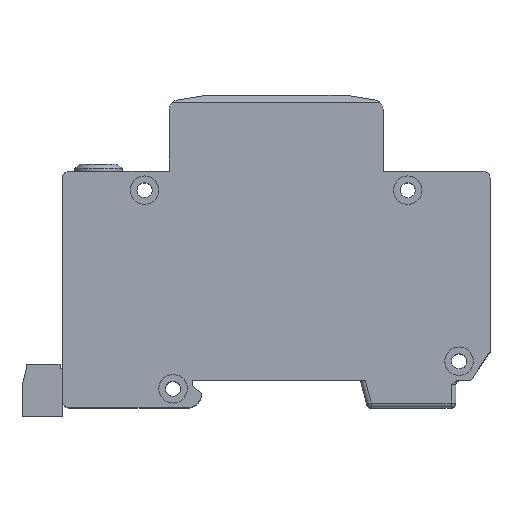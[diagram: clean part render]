
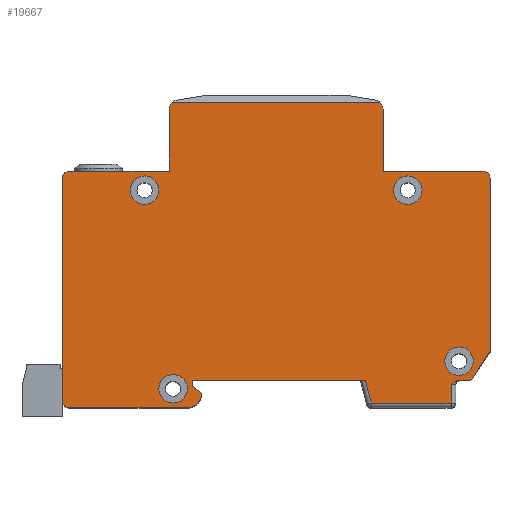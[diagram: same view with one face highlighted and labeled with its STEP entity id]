
A CAD part, top view. The second image highlights one B-rep face of the part: STEP entity #19667.
In plain terms, the highlighted planar face has unit normal (0, 0, 1).
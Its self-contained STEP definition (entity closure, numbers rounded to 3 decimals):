
#292=FACE_BOUND('',#2930,.T.);
#293=FACE_BOUND('',#2931,.T.);
#294=FACE_BOUND('',#2932,.T.);
#295=FACE_BOUND('',#2933,.T.);
#325=B_SPLINE_CURVE_WITH_KNOTS('',3,(#31163,#31164,#31165,#31166,#31167,
#31168),.UNSPECIFIED.,.F.,.F.,(4,2,4),(0.506,0.582,
0.7),.UNSPECIFIED.);
#864=PLANE('',#21249);
#1809=FACE_OUTER_BOUND('',#2929,.T.);
#2929=EDGE_LOOP('',(#16687,#16688,#16689,#16690,#16691,#16692,#16693,#16694,
#16695,#16696,#16697,#16698,#16699,#16700,#16701,#16702,#16703,#16704,#16705,
#16706,#16707,#16708,#16709));
#2930=EDGE_LOOP('',(#16710));
#2931=EDGE_LOOP('',(#16711));
#2932=EDGE_LOOP('',(#16712));
#2933=EDGE_LOOP('',(#16713));
#4456=LINE('',#30152,#6747);
#4772=LINE('',#30841,#7063);
#4790=LINE('',#30878,#7081);
#4796=LINE('',#30894,#7087);
#4800=LINE('',#30902,#7091);
#4804=LINE('',#30914,#7095);
#4826=LINE('',#30973,#7117);
#4830=LINE('',#30982,#7121);
#4882=LINE('',#31082,#7173);
#4888=LINE('',#31100,#7179);
#4893=LINE('',#31149,#7184);
#4894=LINE('',#31153,#7185);
#4895=LINE('',#31156,#7186);
#4896=LINE('',#31158,#7187);
#4897=LINE('',#31160,#7188);
#4898=LINE('',#31162,#7189);
#6747=VECTOR('',#24497,10.);
#7063=VECTOR('',#25049,10.);
#7081=VECTOR('',#25089,10.);
#7087=VECTOR('',#25107,10.);
#7091=VECTOR('',#25115,10.);
#7095=VECTOR('',#25127,10.);
#7117=VECTOR('',#25191,10.);
#7121=VECTOR('',#25201,10.);
#7173=VECTOR('',#25297,10.);
#7179=VECTOR('',#25319,10.);
#7184=VECTOR('',#25386,10.);
#7185=VECTOR('',#25389,10.);
#7186=VECTOR('',#25392,10.);
#7187=VECTOR('',#25393,10.);
#7188=VECTOR('',#25394,10.);
#7189=VECTOR('',#25395,10.);
#8181=CIRCLE('',#21119,1.5);
#8183=CIRCLE('',#21150,1.5);
#8185=CIRCLE('',#21156,3.);
#8195=CIRCLE('',#21214,1.5);
#8214=CIRCLE('',#21250,2.);
#8215=CIRCLE('',#21251,2.);
#8216=CIRCLE('',#21252,3.);
#8217=CIRCLE('',#21253,3.);
#8218=CIRCLE('',#21254,3.);
#8219=CIRCLE('',#21255,3.);
#9305=VERTEX_POINT('',#30149);
#9306=VERTEX_POINT('',#30151);
#9531=VERTEX_POINT('',#30731);
#9561=VERTEX_POINT('',#30839);
#9567=VERTEX_POINT('',#30868);
#9569=VERTEX_POINT('',#30876);
#9571=VERTEX_POINT('',#30884);
#9573=VERTEX_POINT('',#30892);
#9575=VERTEX_POINT('',#30900);
#9579=VERTEX_POINT('',#30912);
#9594=VERTEX_POINT('',#30970);
#9595=VERTEX_POINT('',#30972);
#9597=VERTEX_POINT('',#30980);
#9623=VERTEX_POINT('',#31080);
#9625=VERTEX_POINT('',#31088);
#9627=VERTEX_POINT('',#31098);
#9640=VERTEX_POINT('',#31148);
#9641=VERTEX_POINT('',#31150);
#9642=VERTEX_POINT('',#31152);
#9643=VERTEX_POINT('',#31154);
#9644=VERTEX_POINT('',#31157);
#9645=VERTEX_POINT('',#31159);
#9646=VERTEX_POINT('',#31161);
#9647=VERTEX_POINT('',#31169);
#9648=VERTEX_POINT('',#31171);
#9649=VERTEX_POINT('',#31173);
#9650=VERTEX_POINT('',#31175);
#11620=EDGE_CURVE('',#9306,#9305,#4456,.T.);
#11910=EDGE_CURVE('',#9531,#9305,#8181,.T.);
#11966=EDGE_CURVE('',#9531,#9561,#4772,.T.);
#11982=EDGE_CURVE('',#9567,#9561,#8183,.T.);
#11986=EDGE_CURVE('',#9567,#9569,#4790,.T.);
#11990=EDGE_CURVE('',#9569,#9571,#8185,.T.);
#11994=EDGE_CURVE('',#9571,#9573,#4796,.T.);
#11998=EDGE_CURVE('',#9573,#9575,#4800,.T.);
#12004=EDGE_CURVE('',#9575,#9579,#4804,.T.);
#12033=EDGE_CURVE('',#9594,#9595,#4826,.T.);
#12038=EDGE_CURVE('',#9594,#9597,#4830,.T.);
#12090=EDGE_CURVE('',#9597,#9623,#4882,.T.);
#12094=EDGE_CURVE('',#9625,#9623,#8195,.T.);
#12100=EDGE_CURVE('',#9625,#9627,#4888,.T.);
#12121=EDGE_CURVE('',#9627,#9640,#4893,.T.);
#12122=EDGE_CURVE('',#9641,#9640,#8214,.T.);
#12123=EDGE_CURVE('',#9642,#9641,#4894,.T.);
#12124=EDGE_CURVE('',#9643,#9642,#8215,.T.);
#12125=EDGE_CURVE('',#9643,#9306,#4895,.T.);
#12126=EDGE_CURVE('',#9644,#9579,#4896,.T.);
#12127=EDGE_CURVE('',#9645,#9644,#4897,.T.);
#12128=EDGE_CURVE('',#9646,#9645,#4898,.T.);
#12129=EDGE_CURVE('',#9595,#9646,#325,.T.);
#12130=EDGE_CURVE('',#9647,#9647,#8216,.T.);
#12131=EDGE_CURVE('',#9648,#9648,#8217,.T.);
#12132=EDGE_CURVE('',#9649,#9649,#8218,.T.);
#12133=EDGE_CURVE('',#9650,#9650,#8219,.T.);
#16687=ORIENTED_EDGE('',*,*,#12094,.F.);
#16688=ORIENTED_EDGE('',*,*,#12100,.T.);
#16689=ORIENTED_EDGE('',*,*,#12121,.T.);
#16690=ORIENTED_EDGE('',*,*,#12122,.F.);
#16691=ORIENTED_EDGE('',*,*,#12123,.F.);
#16692=ORIENTED_EDGE('',*,*,#12124,.F.);
#16693=ORIENTED_EDGE('',*,*,#12125,.T.);
#16694=ORIENTED_EDGE('',*,*,#11620,.T.);
#16695=ORIENTED_EDGE('',*,*,#11910,.F.);
#16696=ORIENTED_EDGE('',*,*,#11966,.T.);
#16697=ORIENTED_EDGE('',*,*,#11982,.F.);
#16698=ORIENTED_EDGE('',*,*,#11986,.T.);
#16699=ORIENTED_EDGE('',*,*,#11990,.T.);
#16700=ORIENTED_EDGE('',*,*,#11994,.T.);
#16701=ORIENTED_EDGE('',*,*,#11998,.T.);
#16702=ORIENTED_EDGE('',*,*,#12004,.T.);
#16703=ORIENTED_EDGE('',*,*,#12126,.F.);
#16704=ORIENTED_EDGE('',*,*,#12127,.F.);
#16705=ORIENTED_EDGE('',*,*,#12128,.F.);
#16706=ORIENTED_EDGE('',*,*,#12129,.F.);
#16707=ORIENTED_EDGE('',*,*,#12033,.F.);
#16708=ORIENTED_EDGE('',*,*,#12038,.T.);
#16709=ORIENTED_EDGE('',*,*,#12090,.T.);
#16710=ORIENTED_EDGE('',*,*,#12130,.T.);
#16711=ORIENTED_EDGE('',*,*,#12131,.T.);
#16712=ORIENTED_EDGE('',*,*,#12132,.T.);
#16713=ORIENTED_EDGE('',*,*,#12133,.T.);
#19667=ADVANCED_FACE('',(#1809,#292,#293,#294,#295),#864,.T.);
#21119=AXIS2_PLACEMENT_3D('',#30733,#24948,#24949);
#21150=AXIS2_PLACEMENT_3D('',#30870,#25080,#25081);
#21156=AXIS2_PLACEMENT_3D('',#30886,#25098,#25099);
#21214=AXIS2_PLACEMENT_3D('',#31090,#25306,#25307);
#21249=AXIS2_PLACEMENT_3D('',#31147,#25384,#25385);
#21250=AXIS2_PLACEMENT_3D('',#31151,#25387,#25388);
#21251=AXIS2_PLACEMENT_3D('',#31155,#25390,#25391);
#21252=AXIS2_PLACEMENT_3D('',#31170,#25396,#25397);
#21253=AXIS2_PLACEMENT_3D('',#31172,#25398,#25399);
#21254=AXIS2_PLACEMENT_3D('',#31174,#25400,#25401);
#21255=AXIS2_PLACEMENT_3D('',#31176,#25402,#25403);
#24497=DIRECTION('',(-1.,0.,0.));
#24948=DIRECTION('center_axis',(0.,0.,-1.));
#24949=DIRECTION('ref_axis',(-0.707,0.707,0.));
#25049=DIRECTION('',(0.,-1.,0.));
#25080=DIRECTION('center_axis',(0.,0.,-1.));
#25081=DIRECTION('ref_axis',(-0.707,-0.707,0.));
#25089=DIRECTION('',(1.,0.,0.));
#25098=DIRECTION('center_axis',(0.,0.,1.));
#25099=DIRECTION('ref_axis',(0.,-1.,0.));
#25107=DIRECTION('',(-0.781,0.625,0.));
#25115=DIRECTION('',(0.,1.,0.));
#25127=DIRECTION('',(1.,0.,0.));
#25191=DIRECTION('',(-1.,0.,0.));
#25201=DIRECTION('',(0.555,0.832,0.));
#25297=DIRECTION('',(0.,1.,0.));
#25306=DIRECTION('center_axis',(0.,0.,-1.));
#25307=DIRECTION('ref_axis',(0.707,0.707,0.));
#25319=DIRECTION('',(-1.,0.,0.));
#25384=DIRECTION('center_axis',(0.,0.,1.));
#25385=DIRECTION('ref_axis',(1.,0.,0.));
#25386=DIRECTION('',(0.,1.,0.));
#25387=DIRECTION('center_axis',(0.,0.,-1.));
#25388=DIRECTION('ref_axis',(0.762,0.648,0.));
#25389=DIRECTION('',(1.,0.,0.));
#25390=DIRECTION('center_axis',(0.,0.,-1.));
#25391=DIRECTION('ref_axis',(-0.762,0.648,0.));
#25392=DIRECTION('',(0.,-1.,0.));
#25393=DIRECTION('',(-0.259,0.966,0.));
#25394=DIRECTION('',(-1.,0.,0.));
#25395=DIRECTION('',(0.,-1.,0.));
#25396=DIRECTION('center_axis',(0.,0.,-1.));
#25397=DIRECTION('ref_axis',(1.,0.,0.));
#25398=DIRECTION('center_axis',(0.,0.,-1.));
#25399=DIRECTION('ref_axis',(1.,0.,0.));
#25400=DIRECTION('center_axis',(0.,0.,-1.));
#25401=DIRECTION('ref_axis',(1.,0.,0.));
#25402=DIRECTION('center_axis',(0.,0.,-1.));
#25403=DIRECTION('ref_axis',(1.,0.,0.));
#30149=CARTESIAN_POINT('',(-43.5,14.,17.5));
#30151=CARTESIAN_POINT('',(-22.5,14.,17.5));
#30152=CARTESIAN_POINT('',(-22.5,14.,17.5));
#30731=CARTESIAN_POINT('',(-45.,12.5,17.5));
#30733=CARTESIAN_POINT('Origin',(-43.5,12.5,17.5));
#30839=CARTESIAN_POINT('',(-45.,-34.3,17.5));
#30841=CARTESIAN_POINT('',(-45.,14.,17.5));
#30868=CARTESIAN_POINT('',(-43.5,-35.8,17.5));
#30870=CARTESIAN_POINT('Origin',(-43.5,-34.3,17.5));
#30876=CARTESIAN_POINT('',(-18.7,-35.8,17.5));
#30878=CARTESIAN_POINT('',(-45.,-35.8,17.5));
#30884=CARTESIAN_POINT('',(-15.7,-32.8,17.5));
#30886=CARTESIAN_POINT('Origin',(-18.7,-32.8,17.5));
#30892=CARTESIAN_POINT('',(-17.7,-31.2,17.5));
#30894=CARTESIAN_POINT('',(-15.7,-32.8,17.5));
#30900=CARTESIAN_POINT('',(-17.7,-30.,17.5));
#30902=CARTESIAN_POINT('',(-17.7,-31.2,17.5));
#30912=CARTESIAN_POINT('',(18.735,-30.,17.5));
#30914=CARTESIAN_POINT('',(-17.7,-30.,17.5));
#30970=CARTESIAN_POINT('',(41.,-30.,17.5));
#30972=CARTESIAN_POINT('',(38.532,-30.,17.5));
#30973=CARTESIAN_POINT('',(18.592,-30.,17.5));
#30980=CARTESIAN_POINT('',(45.,-24.,17.5));
#30982=CARTESIAN_POINT('',(41.,-30.,17.5));
#31080=CARTESIAN_POINT('',(45.,12.5,17.5));
#31082=CARTESIAN_POINT('',(45.,-24.,17.5));
#31088=CARTESIAN_POINT('',(43.5,14.,17.5));
#31090=CARTESIAN_POINT('Origin',(43.5,12.5,17.5));
#31098=CARTESIAN_POINT('',(22.5,14.,17.5));
#31100=CARTESIAN_POINT('',(45.,14.,17.5));
#31147=CARTESIAN_POINT('Origin',(-0.615,-5.122,17.5));
#31148=CARTESIAN_POINT('',(22.5,26.999,17.5));
#31149=CARTESIAN_POINT('',(22.5,14.,17.5));
#31150=CARTESIAN_POINT('',(21.821,28.5,17.5));
#31151=CARTESIAN_POINT('Origin',(20.5,26.999,17.5));
#31152=CARTESIAN_POINT('',(-21.821,28.5,17.5));
#31153=CARTESIAN_POINT('',(10.942,28.5,17.5));
#31154=CARTESIAN_POINT('',(-22.5,26.999,17.5));
#31155=CARTESIAN_POINT('Origin',(-20.5,26.999,17.5));
#31156=CARTESIAN_POINT('',(-22.5,30.,17.5));
#31157=CARTESIAN_POINT('',(20.021,-34.8,17.5));
#31158=CARTESIAN_POINT('',(14.943,-15.846,17.5));
#31159=CARTESIAN_POINT('',(36.8,-34.8,17.5));
#31160=CARTESIAN_POINT('',(9.319,-34.8,17.5));
#31161=CARTESIAN_POINT('',(36.8,-31.,17.5));
#31162=CARTESIAN_POINT('',(36.8,-20.461,17.5));
#31163=CARTESIAN_POINT('Ctrl Pts',(38.532,-30.,17.5));
#31164=CARTESIAN_POINT('Ctrl Pts',(38.277,-30.,17.5));
#31165=CARTESIAN_POINT('Ctrl Pts',(37.985,-30.09,17.5));
#31166=CARTESIAN_POINT('Ctrl Pts',(37.415,-30.396,17.5));
#31167=CARTESIAN_POINT('Ctrl Pts',(37.077,-30.723,17.5));
#31168=CARTESIAN_POINT('Ctrl Pts',(36.8,-31.,17.5));
#31169=CARTESIAN_POINT('',(35.5,-26.,17.5));
#31170=CARTESIAN_POINT('Origin',(38.5,-26.,17.5));
#31171=CARTESIAN_POINT('',(24.7,10.,17.5));
#31172=CARTESIAN_POINT('Origin',(27.7,10.,17.5));
#31173=CARTESIAN_POINT('',(-30.7,10.,17.5));
#31174=CARTESIAN_POINT('Origin',(-27.7,10.,17.5));
#31175=CARTESIAN_POINT('',(-24.7,-31.8,17.5));
#31176=CARTESIAN_POINT('Origin',(-21.7,-31.8,17.5));
